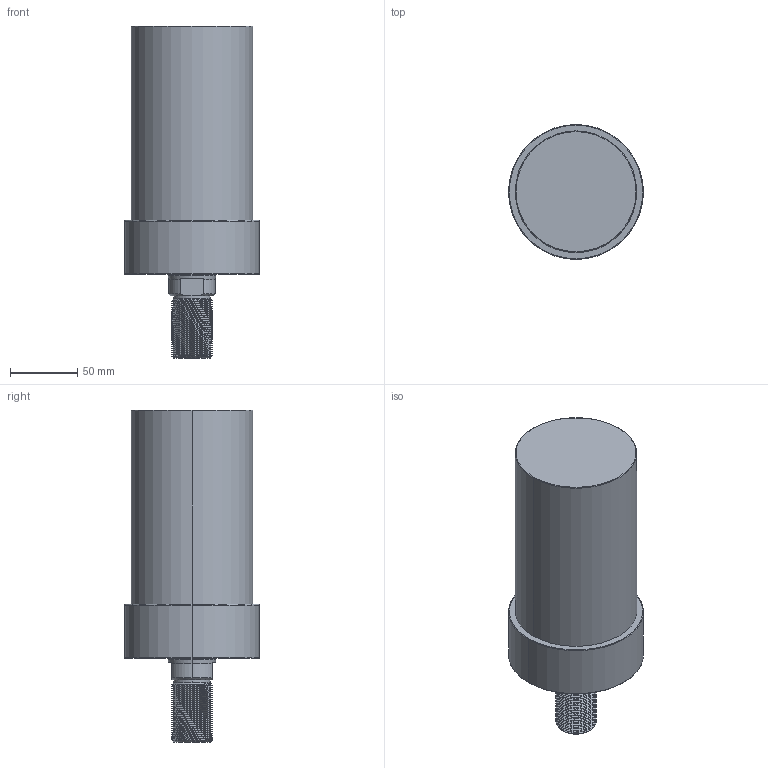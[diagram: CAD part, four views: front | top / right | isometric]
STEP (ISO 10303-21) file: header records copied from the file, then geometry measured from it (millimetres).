
FILE_DESCRIPTION (( 'STEP AP203' ), '1' );
FILE_NAME ('CLLU-090GT-100.STEP', '2020-01-15T01:28:33', ( '' ), ( '' ), 'SwSTEP 2.0', 'SolidWorks 2015', '' );
FILE_SCHEMA (( 'CONFIG_CONTROL_DESIGN' ));
Length unit declared in the file: millimetre
Products named in the file (1): CLLU-090GT-100
Bounding box: 100 x 100 x 246 mm (x, y, z)
Volume: 1268038.6 mm3; surface area: 80969.5 mm2
Topology: 1 solids, 1 shells, 125 faces, 326 edges, 204 vertices
Faces by surface type: cylinder 79, cone 26, plane 12, torus 6, bspline 2
Entity records: 7191 total; most frequent: CARTESIAN_POINT 4402, ORIENTED_EDGE 636, DIRECTION 515, EDGE_CURVE 318, VERTEX_POINT 204, AXIS2_PLACEMENT_3D 202, EDGE_LOOP 134, FACE_OUTER_BOUND 125
